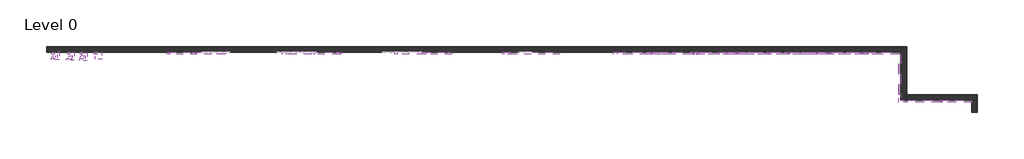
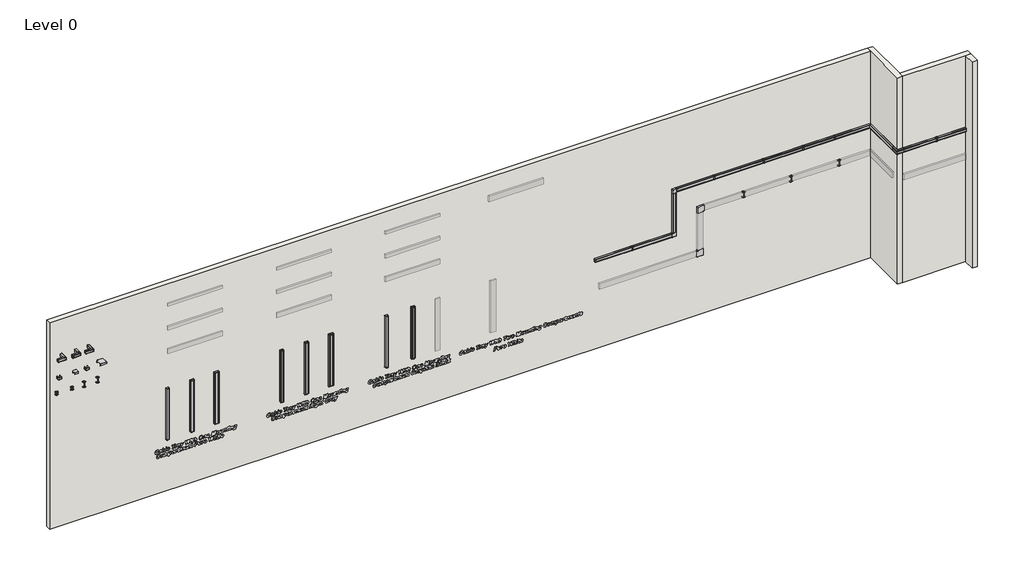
# One storey, part 1 of 5: 39 cable carrier segments, 25 cable carrier fittings, 19 proxies, 4 walls.
"""IFC4 building model written with IfcOpenShell, lengths in millimetres."""

from ifc_helpers import new_model, si_unit, frame, origin, origin_with_axes, place, context, project, spatial, polyline, outline, extrude, faceted_brep, transform, mapped, element, save
from components import ral_7035_light_grey_e2f385a0, ral_7035_light_grey_59abf085, ral_7035_light_grey_bdd1ccd4, ral_7035_light_grey_c893a5ae, ral_7035_light_grey_ba0008b3, ral_7035_light_grey_f50f6097, ral_7035_light_grey_27fdf9d3, ral_7035_light_grey_75ae3775, ral_7035_light_grey_ab9cb874, ral_7035_light_grey_0419c17c, ral_7035_light_grey_c76e6e88, ral_7035_light_grey_e50a98d5, ral_7035_light_grey_e02d2b4f, ral_7035_light_grey_e47fedab, ral_7035_light_grey_df20cfa7, ral_7035_light_grey_244a7b3c, ral_7035_light_grey_b6fd4582, ral_7035_light_grey_8f8970fe, ral_7035_light_grey_a576d7a5, ral_7035_light_grey_9cf4eb19, ral_7035_light_grey_f3a16432, ral_7035_light_grey_0801126e, ral_9010_pure_white_1ff2ae2c, ral_9010_pure_white_cc841c97, ral_9010_pure_white_37bd4c32

model = new_model("IFC4")

# Units and contexts
model_context = context("Model", 3, world=origin())
ifc_project = project(units=[si_unit("LENGTHUNIT", "METRE", prefix="MILLI")], contexts=[model_context])

# Site, building, storey
site = spatial("IfcSite", under=ifc_project)
building = spatial("IfcBuilding", under=site)
storey = spatial("IfcBuildingStorey", under=building, Name="Level 0", Elevation=0.0)

# Proxies
placement = place(None, origin())
ral_7035_light_grey_shape = ral_7035_light_grey_e2f385a0(model_context)
element("IfcBuildingElementProxy", 1, Name="Electrical_Installations_Hager_BRP-Lid-End-Cap-One-Compartment : RAL 7035 - light grey", ObjectType="Electrical_Installations_Hager_BRP-Lid-End-Cap-One-Compartment : RAL 7035 - light grey", at=placement, inside=storey, context=model_context, shape_type="MappedRepresentation", body=[
    mapped(ral_7035_light_grey_shape, transform((-5611.588355, 3986.0812827, 4000.0), x_axis=(0.0, 0.0, -1.0), y_axis=(1.0, 0.0, 0.0), z_axis=(0.0, -1.0, 0.0))),
])
ral_7035_light_grey_2_shape = ral_7035_light_grey_59abf085(model_context)
element("IfcBuildingElementProxy", 2, Name="Electrical_Installations_Hager_BRP-Lid-End-Cap-One-Compartment : RAL 7035 - light grey", ObjectType="Electrical_Installations_Hager_BRP-Lid-End-Cap-One-Compartment : RAL 7035 - light grey", at=placement, inside=storey, context=model_context, shape_type="MappedRepresentation", body=[
    mapped(ral_7035_light_grey_2_shape, transform((-6511.588355, 3986.0812827, 4000.0), x_axis=(0.0, 0.0, -1.0), y_axis=(1.0, 0.0, 0.0), z_axis=(0.0, -1.0, 0.0))),
])
ral_7035_light_grey_3_shape = ral_7035_light_grey_bdd1ccd4(model_context)
element("IfcBuildingElementProxy", 3, Name="Electrical_Installations_Hager_BRP-Lid-End-Cap-One-Compartment : RAL 7035 - light grey", ObjectType="Electrical_Installations_Hager_BRP-Lid-End-Cap-One-Compartment : RAL 7035 - light grey", at=placement, inside=storey, context=model_context, shape_type="MappedRepresentation", body=[
    mapped(ral_7035_light_grey_3_shape, transform((-7411.588355, 3986.0812827, 4000.0), x_axis=(0.0, 0.0, -1.0), y_axis=(1.0, 0.0, 0.0), z_axis=(0.0, -1.0, 0.0))),
])
ral_7035_light_grey_4_shape = ral_7035_light_grey_c893a5ae(model_context)
element("IfcBuildingElementProxy", 4, Name="Electrical_Installations_Hager_BRP-Lid-End-Cap-One-Compartment : RAL 7035 - light grey", ObjectType="Electrical_Installations_Hager_BRP-Lid-End-Cap-One-Compartment : RAL 7035 - light grey", at=placement, inside=storey, context=model_context, shape_type="MappedRepresentation", body=[
    mapped(ral_7035_light_grey_4_shape, transform((4065.205304, 3986.0812827, 3455.6961466), x_axis=(1.0, 0.0, 0.0), y_axis=(0.0, 0.0, 1.0), z_axis=(0.0, -1.0, 0.0))),
])
ral_7035_light_grey_5_shape = ral_7035_light_grey_ba0008b3(model_context)
element("IfcBuildingElementProxy", 5, Name="Electrical_Installations_Hager_BRP-Lid-End-Cap-One-Compartment : RAL 7035 - light grey", ObjectType="Electrical_Installations_Hager_BRP-Lid-End-Cap-One-Compartment : RAL 7035 - light grey", at=placement, inside=storey, context=model_context, shape_type="MappedRepresentation", body=[
    mapped(ral_7035_light_grey_5_shape, transform((5430.7224567, 3986.0812827, 3455.6961466), x_axis=(1.0, 0.0, 0.0), y_axis=(0.0, 0.0, 1.0), z_axis=(0.0, -1.0, 0.0))),
])
ral_7035_light_grey_6_shape = ral_7035_light_grey_f50f6097(model_context)
element("IfcBuildingElementProxy", 6, Name="Electrical_Installations_Hager_BRP-Lid-End-Cap-One-Compartment : RAL 7035 - light grey", ObjectType="Electrical_Installations_Hager_BRP-Lid-End-Cap-One-Compartment : RAL 7035 - light grey", at=placement, inside=storey, context=model_context, shape_type="MappedRepresentation", body=[
    mapped(ral_7035_light_grey_6_shape, transform((6965.205304, 3986.0812827, 3550.6961466), x_axis=(0.0, 0.0, 1.0), y_axis=(-1.0, 0.0, 0.0), z_axis=(0.0, -1.0, 0.0))),
])
ral_7035_light_grey_7_shape = ral_7035_light_grey_27fdf9d3(model_context)
element("IfcBuildingElementProxy", 7, Name="Electrical_Installations_Hager_BRP-Lid-End-Cap-One-Compartment : RAL 7035 - light grey", ObjectType="Electrical_Installations_Hager_BRP-Lid-End-Cap-One-Compartment : RAL 7035 - light grey", at=placement, inside=storey, context=model_context, shape_type="MappedRepresentation", body=[
    mapped(ral_7035_light_grey_7_shape, transform((7060.205304, 3986.0812827, 5155.6961466), x_axis=(1.0, 0.0, 0.0), y_axis=(0.0, 0.0, 1.0), z_axis=(0.0, -1.0, 0.0))),
])
ral_7035_light_grey_8_shape = ral_7035_light_grey_75ae3775(model_context)
element("IfcBuildingElementProxy", 8, Name="Electrical_Installations_Hager_BRP-Lid-End-Cap-One-Compartment : RAL 7035 - light grey", ObjectType="Electrical_Installations_Hager_BRP-Lid-End-Cap-One-Compartment : RAL 7035 - light grey", at=placement, inside=storey, context=model_context, shape_type="MappedRepresentation", body=[
    mapped(ral_7035_light_grey_8_shape, transform((8430.6926436, 3986.0812827, 5155.6961466), x_axis=(1.0, 0.0, 0.0), y_axis=(0.0, 0.0, 1.0), z_axis=(0.0, -1.0, 0.0))),
])
ral_7035_light_grey_9_shape = ral_7035_light_grey_ab9cb874(model_context)
element("IfcBuildingElementProxy", 9, Name="Electrical_Installations_Hager_BRP-Lid-End-Cap-One-Compartment : RAL 7035 - light grey", ObjectType="Electrical_Installations_Hager_BRP-Lid-End-Cap-One-Compartment : RAL 7035 - light grey", at=placement, inside=storey, context=model_context, shape_type="MappedRepresentation", body=[
    mapped(ral_7035_light_grey_9_shape, transform((10247.7179336, 3986.0812827, 5155.6961466), x_axis=(1.0, 0.0, 0.0), y_axis=(0.0, 0.0, 1.0), z_axis=(0.0, -1.0, 0.0))),
])
ral_7035_light_grey_10_shape = ral_7035_light_grey_0419c17c(model_context)
element("IfcBuildingElementProxy", 10, Name="Electrical_Installations_Hager_BRP-Lid-End-Cap-One-Compartment : RAL 7035 - light grey", ObjectType="Electrical_Installations_Hager_BRP-Lid-End-Cap-One-Compartment : RAL 7035 - light grey", at=placement, inside=storey, context=model_context, shape_type="MappedRepresentation", body=[
    mapped(ral_7035_light_grey_10_shape, transform((11693.9336566, 3986.0812827, 5155.6961466), x_axis=(1.0, 0.0, 0.0), y_axis=(0.0, 0.0, 1.0), z_axis=(0.0, -1.0, 0.0))),
])
ral_7035_light_grey_11_shape = ral_7035_light_grey_c76e6e88(model_context)
element("IfcBuildingElementProxy", 11, Name="Electrical_Installations_Hager_BRP-Lid-End-Cap-One-Compartment : RAL 7035 - light grey", ObjectType="Electrical_Installations_Hager_BRP-Lid-End-Cap-One-Compartment : RAL 7035 - light grey", at=placement, inside=storey, context=model_context, shape_type="MappedRepresentation", body=[
    mapped(ral_7035_light_grey_11_shape, transform((12857.9134729, 3986.0812827, 5155.6961466), x_axis=(1.0, 0.0, 0.0), y_axis=(0.0, 0.0, 1.0), z_axis=(0.0, -1.0, 0.0))),
])
ral_7035_light_grey_12_shape = ral_7035_light_grey_e50a98d5(model_context)
element("IfcBuildingElementProxy", 12, Name="Electrical_Installations_Hager_BRP-Lid-End-Cap-One-Compartment : RAL 7035 - light grey", ObjectType="Electrical_Installations_Hager_BRP-Lid-End-Cap-One-Compartment : RAL 7035 - light grey", at=placement, inside=storey, context=model_context, shape_type="MappedRepresentation", body=[
    mapped(ral_7035_light_grey_12_shape, transform((14162.705304, 3967.9437827, 5155.6961933), x_axis=(0.0, -0.999999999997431, 2.2667305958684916e-06), y_axis=(0.0, 2.2667305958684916e-06, 0.999999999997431), z_axis=(-1.0, 0.0, 0.0))),
])
ral_7035_light_grey_13_shape = ral_7035_light_grey_e02d2b4f(model_context)
element("IfcBuildingElementProxy", 13, Name="Electrical_Installations_Hager_BRP-Lid-End-Cap-One-Compartment : RAL 7035 - light grey", ObjectType="Electrical_Installations_Hager_BRP-Lid-End-Cap-One-Compartment : RAL 7035 - light grey", at=placement, inside=storey, context=model_context, shape_type="MappedRepresentation", body=[
    mapped(ral_7035_light_grey_13_shape, transform((14415.205304, 2286.0812827, 5155.7), x_axis=(1.0, 0.0, 0.0), y_axis=(0.0, 0.0, 1.0), z_axis=(0.0, -1.0, 0.0))),
])
ral_7035_light_grey_14_shape = ral_7035_light_grey_e47fedab(model_context)
element("IfcBuildingElementProxy", 14, Name="Electrical_Installations_Hager_BRP-Lid-End-Cap-One-Compartment : RAL 7035 - light grey", ObjectType="Electrical_Installations_Hager_BRP-Lid-End-Cap-One-Compartment : RAL 7035 - light grey", at=placement, inside=storey, context=model_context, shape_type="MappedRepresentation", body=[
    mapped(ral_7035_light_grey_14_shape, transform((15611.7597858, 2286.0812827, 5155.7), x_axis=(1.0, 0.0, 0.0), y_axis=(0.0, 0.0, 1.0), z_axis=(0.0, -1.0, 0.0))),
])
element("IfcBuildingElementProxy", 15, Name="Electrical_Installations_Hager_BRP-Lid-End-Cap-One-Compartment : RAL 9010 - pure white", ObjectType="Electrical_Installations_Hager_BRP-Lid-End-Cap-One-Compartment : RAL 9010 - pure white", at=placement, inside=storey, context=model_context, shape_type="MappedRepresentation", body=[
    mapped(ral_7035_light_grey_3_shape, transform((-11601.0638875, 3986.0812827, 4000.0), x_axis=(0.0, 0.0, -1.0), y_axis=(1.0, 0.0, 0.0), z_axis=(0.0, -1.0, 0.0))),
])
element("IfcBuildingElementProxy", 16, Name="Electrical_Installations_Hager_BRP-Lid-End-Cap-One-Compartment : RAL 9010 - pure white", ObjectType="Electrical_Installations_Hager_BRP-Lid-End-Cap-One-Compartment : RAL 9010 - pure white", at=placement, inside=storey, context=model_context, shape_type="MappedRepresentation", body=[
    mapped(ral_7035_light_grey_2_shape, transform((-10701.0638875, 3986.0812827, 4000.0), x_axis=(0.0, 0.0, -1.0), y_axis=(1.0, 0.0, 0.0), z_axis=(0.0, -1.0, 0.0))),
])
element("IfcBuildingElementProxy", 17, Name="Electrical_Installations_Hager_BRP-Lid-End-Cap-One-Compartment : RAL 9010 - pure white", ObjectType="Electrical_Installations_Hager_BRP-Lid-End-Cap-One-Compartment : RAL 9010 - pure white", at=placement, inside=storey, context=model_context, shape_type="MappedRepresentation", body=[
    mapped(ral_7035_light_grey_shape, transform((-9801.0638875, 3986.0812827, 4000.0), x_axis=(0.0, 0.0, -1.0), y_axis=(1.0, 0.0, 0.0), z_axis=(0.0, -1.0, 0.0))),
])
element("IfcBuildingElementProxy", 18, Name="Electrical_Installations_Hager_BRP-Lid-End-Cap-One-Compartment : RAL9011 - graphite black", ObjectType="Electrical_Installations_Hager_BRP-Lid-End-Cap-One-Compartment : RAL9011 - graphite black", at=placement, inside=storey, context=model_context, shape_type="MappedRepresentation", body=[
    mapped(ral_7035_light_grey_2_shape, transform((-2593.4191608, 3986.0812827, 4000.0), x_axis=(0.0, 0.0, -1.0), y_axis=(1.0, 0.0, 0.0), z_axis=(0.0, -1.0, 0.0))),
])
element("IfcBuildingElementProxy", 19, Name="Electrical_Installations_Hager_BRP-Lid-End-Cap-One-Compartment : RAL9011 - graphite black", ObjectType="Electrical_Installations_Hager_BRP-Lid-End-Cap-One-Compartment : RAL9011 - graphite black", at=placement, inside=storey, context=model_context, shape_type="MappedRepresentation", body=[
    mapped(ral_7035_light_grey_3_shape, transform((-3573.228944, 3982.9897131, 4000.0), x_axis=(0.0, 0.0, -1.0), y_axis=(1.0, 0.0, 0.0), z_axis=(0.0, -1.0, 0.0))),
])

# Cable carrier fittings
ral_7035_light_grey_15_shape = ral_7035_light_grey_df20cfa7(model_context)
element("IfcCableCarrierFitting", 20, ObjectType="Electrical_Installations_Hager_BRP-Horizontal-External-Corner-One-Compartment : RAL 7035 - light grey", at=placement, inside=storey, context=model_context, shape_type="MappedRepresentation", body=[
    mapped(ral_7035_light_grey_15_shape, transform((-15480.0878285, 3795.7507927, 6620.2319977), x_axis=(1.0, 0.0, 0.0), y_axis=(0.0, 1.0, 0.0), z_axis=(0.0, 0.0, 1.0))),
])
ral_7035_light_grey_16_shape = ral_7035_light_grey_244a7b3c(model_context)
element("IfcCableCarrierFitting", 21, ObjectType="Electrical_Installations_Hager_BRP-Cover-Joint-And-Coupling-Set-One-Compartment : RAL 7035 - light grey", at=placement, inside=storey, context=model_context, shape_type="MappedRepresentation", body=[
    mapped(ral_7035_light_grey_16_shape, transform((-15656.1828418, 3982.9590171, 5220.2319977), x_axis=(-1.0, 0.0, 0.0), y_axis=(0.0, -1.0000000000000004, 0.0), z_axis=(0.0, 0.0, 1.0000000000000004))),
])
ral_7035_light_grey_17_shape = ral_7035_light_grey_b6fd4582(model_context)
element("IfcCableCarrierFitting", 22, ObjectType="Electrical_Installations_Hager_BRP-Cover-Joint-And-Coupling-Set-Two-Compartments : RAL 7035 - light grey", at=placement, inside=storey, context=model_context, shape_type="MappedRepresentation", body=[
    mapped(ral_7035_light_grey_17_shape, transform((-14656.1828418, 3982.2219077, 5220.2319977), x_axis=(-1.0, 0.0, 0.0), y_axis=(0.0, -1.0, 0.0), z_axis=(0.0, 0.0, 1.0))),
])
ral_7035_light_grey_18_shape = ral_7035_light_grey_8f8970fe(model_context)
element("IfcCableCarrierFitting", 23, ObjectType="Electrical_Installations_Hager_BRP-Flat-Corner-PC-ABS-Vertical-Inside-And-Outside-Bend-One-Compartment : RAL 7035 - light grey", at=placement, inside=storey, context=model_context, shape_type="MappedRepresentation", body=[
    mapped(ral_7035_light_grey_18_shape, transform((-15644.2285545, 3819.5968987, 5920.2319977), x_axis=(1.0, 0.0, 0.0), y_axis=(0.0, 1.0, 0.0), z_axis=(0.0, 0.0, 1.0))),
])
ral_7035_light_grey_19_shape = ral_7035_light_grey_a576d7a5(model_context)
element("IfcCableCarrierFitting", 24, ObjectType="Electrical_Installations_Hager_BRP-Cover-Joint-And-Coupling-Set-One-Compartment : RAL 7035 - light grey", at=placement, inside=storey, context=model_context, shape_type="MappedRepresentation", body=[
    mapped(ral_7035_light_grey_19_shape, transform((5443.2224567, 3988.5812827, 3455.6961466), x_axis=(-1.0, 0.0, 0.0), y_axis=(0.0, -1.0, 0.0), z_axis=(0.0, 0.0, 1.0))),
])
element("IfcCableCarrierFitting", 25, ObjectType="Electrical_Installations_Hager_BRP-Cover-Joint-And-Coupling-Set-One-Compartment : RAL 7035 - light grey", at=placement, inside=storey, context=model_context, shape_type="MappedRepresentation", body=[
    mapped(ral_7035_light_grey_19_shape, transform((8443.1926436, 3988.5812827, 5155.6961466), x_axis=(-1.0, 0.0, 0.0), y_axis=(0.0, -1.0, 0.0), z_axis=(0.0, 0.0, 1.0))),
])
element("IfcCableCarrierFitting", 26, ObjectType="Electrical_Installations_Hager_BRP-Cover-Joint-And-Coupling-Set-One-Compartment : RAL 7035 - light grey", at=placement, inside=storey, context=model_context, shape_type="MappedRepresentation", body=[
    mapped(ral_7035_light_grey_19_shape, transform((10260.2179336, 3988.5812827, 5155.6961466), x_axis=(-1.0, 0.0, 0.0), y_axis=(0.0, -1.0, 0.0), z_axis=(0.0, 0.0, 1.0))),
])
element("IfcCableCarrierFitting", 27, ObjectType="Electrical_Installations_Hager_BRP-Cover-Joint-And-Coupling-Set-One-Compartment : RAL 7035 - light grey", at=placement, inside=storey, context=model_context, shape_type="MappedRepresentation", body=[
    mapped(ral_7035_light_grey_19_shape, transform((11706.4336566, 3988.5812827, 5155.6961466), x_axis=(-1.0, 0.0, 0.0), y_axis=(0.0, -1.0, 0.0), z_axis=(0.0, 0.0, 1.0))),
])
element("IfcCableCarrierFitting", 28, ObjectType="Electrical_Installations_Hager_BRP-Cover-Joint-And-Coupling-Set-One-Compartment : RAL 7035 - light grey", at=placement, inside=storey, context=model_context, shape_type="MappedRepresentation", body=[
    mapped(ral_7035_light_grey_19_shape, transform((12870.4134729, 3988.5812827, 5155.6961466), x_axis=(-1.0, 0.0, 0.0), y_axis=(0.0, -1.0, 0.0), z_axis=(0.0, 0.0, 1.0))),
])
element("IfcCableCarrierFitting", 29, ObjectType="Electrical_Installations_Hager_BRP-Cover-Joint-And-Coupling-Set-One-Compartment : RAL 7035 - light grey", at=placement, inside=storey, context=model_context, shape_type="MappedRepresentation", body=[
    mapped(ral_7035_light_grey_19_shape, transform((15624.2597858, 2288.5812827, 5155.7), x_axis=(-1.0, 0.0, 0.0), y_axis=(0.0, -1.0, 0.0), z_axis=(0.0, 0.0, 1.0))),
])
ral_7035_light_grey_20_shape = ral_7035_light_grey_9cf4eb19(model_context)
element("IfcCableCarrierFitting", 30, ObjectType="Electrical_Installations_Hager_BRP-Flat-Corner-PC-ABS-Vertical-Inside-And-Outside-Bend-One-Compartment : RAL 7035 - light grey", at=placement, inside=storey, context=model_context, shape_type="MappedRepresentation", body=[
    mapped(ral_7035_light_grey_20_shape, transform((6965.205304, 3988.5812827, 3455.6961466), x_axis=(1.0, 0.0, 0.0), y_axis=(0.0, 0.0, 1.0), z_axis=(0.0, -1.0, 0.0))),
])
ral_7035_light_grey_21_shape = ral_7035_light_grey_f3a16432(model_context)
element("IfcCableCarrierFitting", 31, ObjectType="Electrical_Installations_Hager_BRP-Flat-Corner-PC-ABS-Vertical-Inside-And-Outside-Bend-One-Compartment : RAL 7035 - light grey", at=placement, inside=storey, context=model_context, shape_type="MappedRepresentation", body=[
    mapped(ral_7035_light_grey_21_shape, transform((6965.205304, 3988.5812827, 5155.6961466), x_axis=(0.0, 0.0, 1.0), y_axis=(1.0, 0.0, 0.0), z_axis=(0.0, 1.0, 0.0))),
])
ral_7035_light_grey_22_shape = ral_7035_light_grey_0801126e(model_context)
element("IfcCableCarrierFitting", 32, ObjectType="Electrical_Installations_Hager_BRP-Horizontal-External-Corner-One-Compartment : RAL 7035 - light grey", at=placement, inside=storey, context=model_context, shape_type="MappedRepresentation", body=[
    mapped(ral_7035_light_grey_22_shape, transform((14165.205304, 2288.5812827, 5155.7), x_axis=(0.0, -0.9999999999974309, 2.266730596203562e-06), y_axis=(1.0, 0.0, 0.0), z_axis=(0.0, 2.266730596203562e-06, 0.9999999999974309))),
])
element("IfcCableCarrierFitting", 33, ObjectType="Electrical_Installations_Hager_BRP-Horizontal-External-Corner-One-Compartment : RAL 9010 - pure white", at=placement, inside=storey, context=model_context, shape_type="MappedRepresentation", body=[
    mapped(ral_7035_light_grey_15_shape, transform((-14962.0281183, 3766.1473807, 6620.2319977), x_axis=(1.0, 0.0, 0.0), y_axis=(0.0, 1.0, 0.0), z_axis=(0.0, 0.0, 1.0))),
])
ral_9010_pure_white_shape = ral_9010_pure_white_1ff2ae2c(model_context)
element("IfcCableCarrierFitting", 34, ObjectType="Electrical_Installations_Hager_BRP-Flat-Corner-PC-ABS-Vertical-Inside-And-Outside-Bend-Two-Compartments : RAL 9010 - pure white", at=placement, inside=storey, context=model_context, shape_type="MappedRepresentation", body=[
    mapped(ral_9010_pure_white_shape, transform((7927.9927936, 3988.5812827, 2408.8919795), x_axis=(1.0, 0.0, 0.0), y_axis=(0.0, 0.0, 1.0), z_axis=(0.0, -1.0, 0.0))),
])
element("IfcCableCarrierFitting", 35, ObjectType="Electrical_Installations_Hager_BRP-Flat-Corner-PC-ABS-Vertical-Inside-And-Outside-Bend-Two-Compartments : RAL 9010 - pure white", at=placement, inside=storey, context=model_context, shape_type="MappedRepresentation", body=[
    mapped(ral_9010_pure_white_shape, transform((-14055.703144, 3886.0812827, 5920.2319977), x_axis=(1.0, 0.0, 0.0), y_axis=(0.0, 1.0, 0.0), z_axis=(0.0, 0.0, 1.0))),
])
element("IfcCableCarrierFitting", 36, ObjectType="Electrical_Installations_Hager_BRP-Cover-Joint-And-Coupling-Set-One-Compartment : RAL 9010 - pure white", at=placement, inside=storey, context=model_context, shape_type="MappedRepresentation", body=[
    mapped(ral_7035_light_grey_16_shape, transform((-15096.1828418, 3982.9590171, 5220.2319977), x_axis=(-1.0, 0.0, 0.0), y_axis=(0.0, -1.0, 0.0), z_axis=(0.0, 0.0, 1.0))),
])
element("IfcCableCarrierFitting", 37, ObjectType="Electrical_Installations_Hager_BRP-Cover-Joint-And-Coupling-Set-Two-Compartments : RAL 9010 - pure white", at=placement, inside=storey, context=model_context, shape_type="MappedRepresentation", body=[
    mapped(ral_7035_light_grey_17_shape, transform((9532.0175357, 3988.5812827, 4115.2319977), x_axis=(-1.0, 0.0, 0.0), y_axis=(0.0, -1.0, 0.0), z_axis=(0.0, 0.0, 1.0))),
])
element("IfcCableCarrierFitting", 38, ObjectType="Electrical_Installations_Hager_BRP-Cover-Joint-And-Coupling-Set-Two-Compartments : RAL 9010 - pure white", at=placement, inside=storey, context=model_context, shape_type="MappedRepresentation", body=[
    mapped(ral_7035_light_grey_17_shape, transform((11271.292701, 3988.5812827, 4115.2319977), x_axis=(-1.0, 0.0, 0.0), y_axis=(0.0, -1.0, 0.0), z_axis=(0.0, 0.0, 1.0))),
])
element("IfcCableCarrierFitting", 39, ObjectType="Electrical_Installations_Hager_BRP-Cover-Joint-And-Coupling-Set-Two-Compartments : RAL 9010 - pure white", at=placement, inside=storey, context=model_context, shape_type="MappedRepresentation", body=[
    mapped(ral_7035_light_grey_17_shape, transform((13035.4055078, 3988.5812827, 4115.2319977), x_axis=(-1.0, 0.0, 0.0), y_axis=(0.0, -1.0, 0.0), z_axis=(0.0, 0.0, 1.0))),
])
element("IfcCableCarrierFitting", 40, ObjectType="Electrical_Installations_Hager_BRP-Cover-Joint-And-Coupling-Set-Two-Compartments : RAL 9010 - pure white", at=placement, inside=storey, context=model_context, shape_type="MappedRepresentation", body=[
    mapped(ral_7035_light_grey_17_shape, transform((-14156.1828418, 3982.2219077, 5220.2319977), x_axis=(-1.0, 0.0, 0.0), y_axis=(0.0, -1.0, 0.0), z_axis=(0.0, 0.0, 1.0))),
])
ral_9010_pure_white_2_shape = ral_9010_pure_white_cc841c97(model_context)
element("IfcCableCarrierFitting", 41, ObjectType="Electrical_Installations_Hager_BRP-Flat-Corner-PC-ABS-Vertical-Inside-And-Outside-Bend-One-Compartment : RAL 9010 - pure white", at=placement, inside=storey, context=model_context, shape_type="MappedRepresentation", body=[
    mapped(ral_9010_pure_white_2_shape, transform((-15050.3095703, 3824.5308007, 5920.2319977), x_axis=(1.0, 0.0, 0.0), y_axis=(0.0, 1.0, 0.0), z_axis=(0.0, 0.0, 1.0))),
])
ral_9010_pure_white_3_shape = ral_9010_pure_white_37bd4c32(model_context)
element("IfcCableCarrierFitting", 42, ObjectType="Electrical_Installations_Hager_BRP-Flat-Corner-PC-ABS-Vertical-Inside-And-Outside-Bend-Two-Compartments : RAL 9010 - pure white", at=placement, inside=storey, context=model_context, shape_type="MappedRepresentation", body=[
    mapped(ral_9010_pure_white_3_shape, transform((7927.9927936, 3988.5812827, 4115.2319977), x_axis=(0.0, 0.0, 1.0), y_axis=(1.0, 0.0, 0.0), z_axis=(0.0, 1.0, 0.0))),
])
element("IfcCableCarrierFitting", 43, ObjectType="Electrical_Installations_Hager_BRP-Horizontal-External-Corner-One-Compartment : RAL 9011 - graphite black", at=placement, inside=storey, context=model_context, shape_type="MappedRepresentation", body=[
    mapped(ral_7035_light_grey_15_shape, transform((-14493.3074281, 3756.2795767, 6620.2319977), x_axis=(1.0, 0.0, 0.0), y_axis=(0.0, 1.0, 0.0), z_axis=(0.0, 0.0, 1.0))),
])
element("IfcCableCarrierFitting", 44, ObjectType="Electrical_Installations_Hager_BRP-Flat-Corner-PC-ABS-Vertical-Inside-And-Outside-Bend-One-Compartment : RAL 9011 - graphite black", at=placement, inside=storey, context=model_context, shape_type="MappedRepresentation", body=[
    mapped(ral_7035_light_grey_18_shape, transform((-14629.8703322, 3834.3986047, 5920.2319977), x_axis=(1.0, 0.0, 0.0), y_axis=(0.0, 1.0, 0.0), z_axis=(0.0, 0.0, 1.0))),
])

# Cable carrier segments
element("IfcCableCarrierSegment", 45, ObjectType="Electrical_Installations_Hager_Trunking-BRP-One-Compartment-RAL9010-Pure-White", at=placement, inside=storey, context=model_context, shape_type="SweptSolid", body=[
    extrude(outline(polyline([(-11551.0638875, 4021.0812827), (-11551.0638875, 3956.0812827), (-11651.0638875, 3956.0812827), (-11651.0638875, 4021.0812827), (-11551.0638875, 4021.0812827)])), frame((0.0, 0.0, 2000.0), z_axis=(0.0, 0.0, 1.0), x_axis=(1.0, 0.0, 0.0)), (0.0, 0.0, 1.0), 2000.0),
])
element("IfcCableCarrierSegment", 46, ObjectType="Electrical_Installations_Hager_Trunking-BRP-One-Compartment-RAL9010-Pure-White", at=placement, inside=storey, context=model_context, shape_type="SweptSolid", body=[
    extrude(outline(polyline([(-10636.0638875, 4021.0812827), (-10636.0638875, 3956.0812827), (-10766.0638875, 3956.0812827), (-10766.0638875, 4021.0812827), (-10636.0638875, 4021.0812827)])), frame((0.0, 0.0, 2000.0), z_axis=(0.0, 0.0, 1.0), x_axis=(1.0, 0.0, 0.0)), (0.0, 0.0, 1.0), 2000.0),
])
element("IfcCableCarrierSegment", 47, ObjectType="Electrical_Installations_Hager_Trunking-BRP-One-Compartment-RAL9010-Pure-White", at=placement, inside=storey, context=model_context, shape_type="SweptSolid", body=[
    extrude(outline(polyline([(-9716.0638875, 4021.0812827), (-9716.0638875, 3956.0812827), (-9886.0638875, 3956.0812827), (-9886.0638875, 4021.0812827), (-9716.0638875, 4021.0812827)])), frame((0.0, 0.0, 2000.0), z_axis=(0.0, 0.0, 1.0), x_axis=(1.0, 0.0, 0.0)), (0.0, 0.0, 1.0), 2000.0),
])
element("IfcCableCarrierSegment", 48, ObjectType="Electrical_Installations_Hager_Trunking-BRP-One-Compartment-RAL7035-Light-Grey", at=placement, inside=storey, context=model_context, shape_type="SweptSolid", body=[
    extrude(outline(polyline([(-7361.588355, 4021.0812827), (-7361.588355, 3956.0812827), (-7461.588355, 3956.0812827), (-7461.588355, 4021.0812827), (-7361.588355, 4021.0812827)])), frame((0.0, 0.0, 2000.0), z_axis=(0.0, 0.0, 1.0), x_axis=(1.0, 0.0, 0.0)), (0.0, 0.0, 1.0), 2000.0),
])
element("IfcCableCarrierSegment", 49, ObjectType="Electrical_Installations_Hager_Trunking-BRP-One-Compartment-RAL7035-Light-Grey", at=placement, inside=storey, context=model_context, shape_type="SweptSolid", body=[
    extrude(outline(polyline([(-6446.588355, 4021.0812827), (-6446.588355, 3956.0812827), (-6576.588355, 3956.0812827), (-6576.588355, 4021.0812827), (-6446.588355, 4021.0812827)])), frame((0.0, 0.0, 2000.0), z_axis=(0.0, 0.0, 1.0), x_axis=(1.0, 0.0, 0.0)), (0.0, 0.0, 1.0), 2000.0),
])
element("IfcCableCarrierSegment", 50, ObjectType="Electrical_Installations_Hager_Trunking-BRP-One-Compartment-RAL7035-Light-Grey", at=placement, inside=storey, context=model_context, shape_type="SweptSolid", body=[
    extrude(outline(polyline([(-5526.588355, 4021.0812827), (-5526.588355, 3956.0812827), (-5696.588355, 3956.0812827), (-5696.588355, 4021.0812827), (-5526.588355, 4021.0812827)])), frame((0.0, 0.0, 2000.0), z_axis=(0.0, 0.0, 1.0), x_axis=(1.0, 0.0, 0.0)), (0.0, 0.0, 1.0), 2000.0),
])
element("IfcCableCarrierSegment", 51, ObjectType="Electrical_Installations_Hager_Trunking-BRP-One-Compartment-RAL9011-Graphite-Black", at=placement, inside=storey, context=model_context, shape_type="SweptSolid", body=[
    extrude(outline(polyline([(-3523.228944, 4017.9897131), (-3523.228944, 3952.9897131), (-3623.228944, 3952.9897131), (-3623.228944, 4017.9897131), (-3523.228944, 4017.9897131)])), frame((0.0, 0.0, 2000.0), z_axis=(0.0, 0.0, 1.0), x_axis=(1.0, 0.0, 0.0)), (0.0, 0.0, 1.0), 2000.0),
])
element("IfcCableCarrierSegment", 52, ObjectType="Electrical_Installations_Hager_Trunking-BRP-One-Compartment-RAL9011-Graphite-Black", at=placement, inside=storey, context=model_context, shape_type="SweptSolid", body=[
    extrude(outline(polyline([(-2528.4191608, 4021.0812827), (-2528.4191608, 3956.0812827), (-2658.4191608, 3956.0812827), (-2658.4191608, 4021.0812827), (-2528.4191608, 4021.0812827)])), frame((0.0, 0.0, 2000.0), z_axis=(0.0, 0.0, 1.0), x_axis=(1.0, 0.0, 0.0)), (0.0, 0.0, 1.0), 2000.0),
])
element("IfcCableCarrierSegment", 53, ObjectType="Electrical_Installations_Hager_Trunking-BRP-One-Compartment-RAL9011-Graphite-Black", at=placement, inside=storey, context=model_context, shape_type="SweptSolid", body=[
    extrude(outline(polyline([(-1608.4191608, 4021.0812827), (-1608.4191608, 3956.0812827), (-1778.4191608, 3956.0812827), (-1778.4191608, 4021.0812827), (-1608.4191608, 4021.0812827)])), frame((0.0, 0.0, 2000.0), z_axis=(0.0, 0.0, 1.0), x_axis=(1.0, 0.0, 0.0)), (0.0, 0.0, 1.0), 2000.0),
])
element("IfcCableCarrierSegment", 54, ObjectType="Electrical_Installations_Hager_Trunking-BRP-Two-Compartments-RAL9010-Pure-White", at=placement, inside=storey, context=model_context, shape_type="SweptSolid", body=[
    extrude(outline(polyline([(443.3618884, 4021.0812827), (443.3618884, 3956.0812827), (233.3618884, 3956.0812827), (233.3618884, 4021.0812827), (443.3618884, 4021.0812827)])), frame((0.0, 0.0, 2000.0), z_axis=(0.0, 0.0, 1.0), x_axis=(1.0, 0.0, 0.0)), (0.0, 0.0, 1.0), 2000.0),
])
element("IfcCableCarrierSegment", 55, ObjectType="Electrical_Installations_Hager_Trunking-BRP-One-Compartment-RAL9010-Pure-White", at=placement, inside=storey, context=model_context, shape_type="SweptSolid", body=[
    extrude(outline(polyline([(-9585.8318898, 4021.0812827), (-9585.8318898, 3956.0812827), (-11585.8318898, 3956.0812827), (-11585.8318898, 4021.0812827), (-9585.8318898, 4021.0812827)])), frame((0.0, 0.0, 7165.2319977), z_axis=(0.0, 0.0, 1.0), x_axis=(1.0, 0.0, 0.0)), (0.0, 0.0, 1.0), 100.0),
])
element("IfcCableCarrierSegment", 56, ObjectType="Electrical_Installations_Hager_Trunking-BRP-One-Compartment-RAL9010-Pure-White", at=placement, inside=storey, context=model_context, shape_type="SweptSolid", body=[
    extrude(outline(polyline([(-9585.8318898, 4021.0812827), (-9585.8318898, 3956.0812827), (-11585.8318898, 3956.0812827), (-11585.8318898, 4021.0812827), (-9585.8318898, 4021.0812827)])), frame((0.0, 0.0, 6250.2319977), z_axis=(0.0, 0.0, 1.0), x_axis=(1.0, 0.0, 0.0)), (0.0, 0.0, 1.0), 130.0),
])
element("IfcCableCarrierSegment", 57, ObjectType="Electrical_Installations_Hager_Trunking-BRP-One-Compartment-RAL9010-Pure-White", at=placement, inside=storey, context=model_context, shape_type="SweptSolid", body=[
    extrude(outline(polyline([(-9585.8318898, 4021.0812827), (-9585.8318898, 3956.0812827), (-11585.8318898, 3956.0812827), (-11585.8318898, 4021.0812827), (-9585.8318898, 4021.0812827)])), frame((0.0, 0.0, 5330.2), z_axis=(0.0, 0.0, 1.0), x_axis=(1.0, 0.0, 0.0)), (0.0, 0.0, 1.0), 170.0),
])
element("IfcCableCarrierSegment", 58, ObjectType="Electrical_Installations_Hager_Trunking-BRP-One-Compartment-RAL7035-Light-Grey", at=placement, inside=storey, context=model_context, shape_type="SweptSolid", body=[
    extrude(outline(polyline([(-5591.8203528, 4021.0812827), (-5591.8203528, 3956.0812827), (-7591.8203528, 3956.0812827), (-7591.8203528, 4021.0812827), (-5591.8203528, 4021.0812827)])), frame((0.0, 0.0, 7165.2319977), z_axis=(0.0, 0.0, 1.0), x_axis=(1.0, 0.0, 0.0)), (0.0, 0.0, 1.0), 100.0),
])
element("IfcCableCarrierSegment", 59, ObjectType="Electrical_Installations_Hager_Trunking-BRP-One-Compartment-RAL7035-Light-Grey", at=placement, inside=storey, context=model_context, shape_type="SweptSolid", body=[
    extrude(outline(polyline([(-5591.8203528, 4021.0812827), (-5591.8203528, 3956.0812827), (-7591.8203528, 3956.0812827), (-7591.8203528, 4021.0812827), (-5591.8203528, 4021.0812827)])), frame((0.0, 0.0, 6250.2319977), z_axis=(0.0, 0.0, 1.0), x_axis=(1.0, 0.0, 0.0)), (0.0, 0.0, 1.0), 130.0),
])
element("IfcCableCarrierSegment", 60, ObjectType="Electrical_Installations_Hager_Trunking-BRP-One-Compartment-RAL7035-Light-Grey", at=placement, inside=storey, context=model_context, shape_type="SweptSolid", body=[
    extrude(outline(polyline([(-5591.8203528, 4021.0812827), (-5591.8203528, 3956.0812827), (-7591.8203528, 3956.0812827), (-7591.8203528, 4021.0812827), (-5591.8203528, 4021.0812827)])), frame((0.0, 0.0, 5330.2319977), z_axis=(0.0, 0.0, 1.0), x_axis=(1.0, 0.0, 0.0)), (0.0, 0.0, 1.0), 170.0),
])
element("IfcCableCarrierSegment", 61, ObjectType="Electrical_Installations_Hager_Trunking-BRP-One-Compartment-RAL9011-Graphite-Black", at=placement, inside=storey, context=model_context, shape_type="SweptSolid", body=[
    extrude(outline(polyline([(-1615.8240524, 4021.0812827), (-1615.8240524, 3956.0812827), (-3615.8240524, 3956.0812827), (-3615.8240524, 4021.0812827), (-1615.8240524, 4021.0812827)])), frame((0.0, 0.0, 6250.2319977), z_axis=(0.0, 0.0, 1.0), x_axis=(1.0, 0.0, 0.0)), (0.0, 0.0, 1.0), 130.0),
])
element("IfcCableCarrierSegment", 62, ObjectType="Electrical_Installations_Hager_Trunking-BRP-One-Compartment-RAL9011-Graphite-Black", at=placement, inside=storey, context=model_context, shape_type="SweptSolid", body=[
    extrude(outline(polyline([(-1615.8240524, 4021.0812827), (-1615.8240524, 3956.0812827), (-3615.8240524, 3956.0812827), (-3615.8240524, 4021.0812827), (-1615.8240524, 4021.0812827)])), frame((0.0, 0.0, 5330.2319977), z_axis=(0.0, 0.0, 1.0), x_axis=(1.0, 0.0, 0.0)), (0.0, 0.0, 1.0), 170.0),
])
element("IfcCableCarrierSegment", 63, ObjectType="Electrical_Installations_Hager_Trunking-BRP-Two-Compartments-RAL9010-Pure-White", at=placement, inside=storey, context=model_context, shape_type="SweptSolid", body=[
    extrude(outline(polyline([(2176.8946602, 4021.0812827), (2176.8946602, 3956.0812827), (176.8946602, 3956.0812827), (176.8946602, 4021.0812827), (2176.8946602, 4021.0812827)])), frame((0.0, 0.0, 7110.2319977), z_axis=(0.0, 0.0, 1.0), x_axis=(1.0, 0.0, 0.0)), (0.0, 0.0, 1.0), 210.0),
])
element("IfcCableCarrierSegment", 64, ObjectType="Electrical_Installations_Hager_Trunking-BRP-One-Compartment-RAL9011-Graphite-Black", at=placement, inside=storey, context=model_context, shape_type="SweptSolid", body=[
    extrude(outline(polyline([(-1615.8240524, 4021.0812827), (-1615.8240524, 3956.0812827), (-3615.8240524, 3956.0812827), (-3615.8240524, 4021.0812827), (-1615.8240524, 4021.0812827)])), frame((0.0, 0.0, 7165.2319977), z_axis=(0.0, 0.0, 1.0), x_axis=(1.0, 0.0, 0.0)), (0.0, 0.0, 1.0), 100.0),
])
element("IfcCableCarrierSegment", 65, ObjectType="Electrical_Installations_Hager_Trunking-BRP-One-Compartment-RAL7035-Light-Grey", at=placement, inside=storey, context=model_context, shape_type="SweptSolid", body=[
    extrude(outline(polyline([(5430.7224567, 3956.0812827), (5430.7224567, 4021.0812827), (6870.205304, 4021.0812827), (6870.205304, 3956.0812827), (5430.7224567, 3956.0812827)])), frame((0.0, 0.0, 3390.6961466), z_axis=(0.0, 0.0, 1.0), x_axis=(1.0, 0.0, 0.0)), (0.0, 0.0, 1.0), 130.0),
])
element("IfcCableCarrierSegment", 66, ObjectType="Electrical_Installations_Hager_Trunking-BRP-One-Compartment-RAL7035-Light-Grey", at=placement, inside=storey, context=model_context, shape_type="SweptSolid", body=[
    extrude(outline(polyline([(7030.205304, 3956.0812827), (6900.205304, 3956.0812827), (6900.205304, 4021.0812827), (7030.205304, 4021.0812827), (7030.205304, 3956.0812827)])), frame((0.0, 0.0, 3550.6961466), z_axis=(0.0, 0.0, 1.0), x_axis=(1.0, 0.0, 0.0)), (0.0, 0.0, 1.0), 1510.0),
])
element("IfcCableCarrierSegment", 67, ObjectType="Electrical_Installations_Hager_Trunking-BRP-One-Compartment-RAL7035-Light-Grey", at=placement, inside=storey, context=model_context, shape_type="SweptSolid", body=[
    extrude(outline(polyline([(12857.9134729, 3956.0812827), (12857.9134729, 4021.0812827), (14144.567804, 4021.0812827), (14144.567804, 3956.0812827), (12857.9134729, 3956.0812827)])), frame((0.0, 0.0, 5090.6961466), z_axis=(0.0, 0.0, 1.0), x_axis=(1.0, 0.0, 0.0)), (0.0, 0.0, 1.0), 130.0),
])
element("IfcCableCarrierSegment", 68, ObjectType="Electrical_Installations_Hager_Trunking-BRP-One-Compartment-RAL7035-Light-Grey", at=placement, inside=storey, context=model_context, shape_type="SweptSolid", body=[
    extrude(outline(polyline([(0.0, -65.0), (0.0, 0.0), (1429.3625, 0.0), (1429.3625, -65.0), (0.0, -65.0)])), frame((14197.705304, 3967.9436354, 5090.6961933), z_axis=(0.0, 2.2667305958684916e-06, 0.999999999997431), x_axis=(0.0, -0.999999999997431, 2.2667305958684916e-06)), (0.0, 0.0, 1.0), 130.0),
])
element("IfcCableCarrierSegment", 69, ObjectType="Electrical_Installations_Hager_Trunking-BRP-One-Compartment-RAL7035-Light-Grey", at=placement, inside=storey, context=model_context, shape_type="SweptSolid", body=[
    extrude(outline(polyline([(15611.7597858, 2256.0812827), (15611.7597858, 2321.0812827), (16685.205304, 2321.0812827), (16685.205304, 2256.0812827), (15611.7597858, 2256.0812827)])), frame((0.0, 0.0, 5090.7), z_axis=(0.0, 0.0, 1.0), x_axis=(1.0, 0.0, 0.0)), (0.0, 0.0, 1.0), 130.0),
])
element("IfcCableCarrierSegment", 70, ObjectType="Electrical_Installations_Hager_Trunking-BRP-One-Compartment-RAL7035-Light-Grey", at=placement, inside=storey, context=model_context, shape_type="SweptSolid", body=[
    extrude(outline(polyline([(4065.205304, 3956.0812827), (4065.205304, 4021.0812827), (5430.7224567, 4021.0812827), (5430.7224567, 3956.0812827), (4065.205304, 3956.0812827)])), frame((0.0, 0.0, 3390.6961466), z_axis=(0.0, 0.0, 1.0), x_axis=(1.0, 0.0, 0.0)), (0.0, 0.0, 1.0), 130.0),
])
element("IfcCableCarrierSegment", 71, ObjectType="Electrical_Installations_Hager_Trunking-BRP-One-Compartment-RAL7035-Light-Grey", at=placement, inside=storey, context=model_context, shape_type="SweptSolid", body=[
    extrude(outline(polyline([(7060.205304, 3956.0812827), (7060.205304, 4021.0812827), (8430.6926436, 4021.0812827), (8430.6926436, 3956.0812827), (7060.205304, 3956.0812827)])), frame((0.0, 0.0, 5090.6961466), z_axis=(0.0, 0.0, 1.0), x_axis=(1.0, 0.0, 0.0)), (0.0, 0.0, 1.0), 130.0),
])
element("IfcCableCarrierSegment", 72, ObjectType="Electrical_Installations_Hager_Trunking-BRP-One-Compartment-RAL7035-Light-Grey", at=placement, inside=storey, context=model_context, shape_type="SweptSolid", body=[
    extrude(outline(polyline([(8430.6926436, 3956.0812827), (8430.6926436, 4021.0812827), (10247.7179336, 4021.0812827), (10247.7179336, 3956.0812827), (8430.6926436, 3956.0812827)])), frame((0.0, 0.0, 5090.6961466), z_axis=(0.0, 0.0, 1.0), x_axis=(1.0, 0.0, 0.0)), (0.0, 0.0, 1.0), 130.0),
])
element("IfcCableCarrierSegment", 73, ObjectType="Electrical_Installations_Hager_Trunking-BRP-One-Compartment-RAL7035-Light-Grey", at=placement, inside=storey, context=model_context, shape_type="SweptSolid", body=[
    extrude(outline(polyline([(10247.7179336, 3956.0812827), (10247.7179336, 4021.0812827), (11693.9336566, 4021.0812827), (11693.9336566, 3956.0812827), (10247.7179336, 3956.0812827)])), frame((0.0, 0.0, 5090.6961466), z_axis=(0.0, 0.0, 1.0), x_axis=(1.0, 0.0, 0.0)), (0.0, 0.0, 1.0), 130.0),
])
element("IfcCableCarrierSegment", 74, ObjectType="Electrical_Installations_Hager_Trunking-BRP-One-Compartment-RAL7035-Light-Grey", at=placement, inside=storey, context=model_context, shape_type="SweptSolid", body=[
    extrude(outline(polyline([(11693.9336566, 3956.0812827), (11693.9336566, 4021.0812827), (12857.9134729, 4021.0812827), (12857.9134729, 3956.0812827), (11693.9336566, 3956.0812827)])), frame((0.0, 0.0, 5090.6961466), z_axis=(0.0, 0.0, 1.0), x_axis=(1.0, 0.0, 0.0)), (0.0, 0.0, 1.0), 130.0),
])
element("IfcCableCarrierSegment", 75, ObjectType="Electrical_Installations_Hager_Trunking-BRP-One-Compartment-RAL7035-Light-Grey", at=placement, inside=storey, context=model_context, shape_type="SweptSolid", body=[
    extrude(outline(polyline([(14415.205304, 2256.0812827), (14415.205304, 2321.0812827), (15611.7597858, 2321.0812827), (15611.7597858, 2256.0812827), (14415.205304, 2256.0812827)])), frame((0.0, 0.0, 5090.7), z_axis=(0.0, 0.0, 1.0), x_axis=(1.0, 0.0, 0.0)), (0.0, 0.0, 1.0), 130.0),
])
element("IfcCableCarrierSegment", 76, ObjectType="Electrical_Installations_Hager_Trunking-BRP-Two-Compartments-RAL9010-Pure-White", at=placement, inside=storey, context=model_context, shape_type="SweptSolid", body=[
    extrude(outline(polyline([(4227.9927936, 3956.0812827), (4227.9927936, 4021.0812827), (7792.9927936, 4021.0812827), (7792.9927936, 3956.0812827), (4227.9927936, 3956.0812827)])), frame((0.0, 0.0, 2303.8919795), z_axis=(0.0, 0.0, 1.0), x_axis=(1.0, 0.0, 0.0)), (0.0, 0.0, 1.0), 210.0),
])
element("IfcCableCarrierSegment", 77, ObjectType="Electrical_Installations_Hager_Trunking-BRP-Two-Compartments-RAL9010-Pure-White", at=placement, inside=storey, context=model_context, shape_type="SweptSolid", body=[
    extrude(outline(polyline([(8032.9927936, 3956.0812827), (7822.9927936, 3956.0812827), (7822.9927936, 4021.0812827), (8032.9927936, 4021.0812827), (8032.9927936, 3956.0812827)])), frame((0.0, 0.0, 2543.8919795), z_axis=(0.0, 0.0, 1.0), x_axis=(1.0, 0.0, 0.0)), (0.0, 0.0, 1.0), 1436.3400182),
])
element("IfcCableCarrierSegment", 78, ObjectType="Electrical_Installations_Hager_Trunking-BRP-Two-Compartments-RAL9010-Pure-White", at=placement, inside=storey, context=model_context, shape_type="SweptSolid", body=[
    extrude(outline(polyline([(13022.9055078, 3956.0812827), (13022.9055078, 4021.0812827), (14144.505304, 4021.0812827), (14144.505304, 3956.0812827), (13022.9055078, 3956.0812827)])), frame((0.0, 0.0, 4010.2319977), z_axis=(0.0, 0.0, 1.0), x_axis=(1.0, 0.0, 0.0)), (0.0, 0.0, 1.0), 210.0),
])
element("IfcCableCarrierSegment", 79, ObjectType="Electrical_Installations_Hager_Trunking-BRP-Two-Compartments-RAL9010-Pure-White", at=placement, inside=storey, context=model_context, shape_type="SweptSolid", body=[
    extrude(outline(polyline([(0.0, -65.0), (0.0, 0.0), (1429.3625003, 0.0), (1429.3625003, -65.0), (0.0, -65.0)])), frame((14197.642804, 3967.9457389, 4010.2319978), z_axis=(0.0, -1.862997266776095e-05, 0.999999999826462), x_axis=(0.0, -0.999999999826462, -1.862997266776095e-05)), (0.0, 0.0, 1.0), 210.0),
])
element("IfcCableCarrierSegment", 80, ObjectType="Electrical_Installations_Hager_Trunking-BRP-Two-Compartments-RAL9010-Pure-White", at=placement, inside=storey, context=model_context, shape_type="SweptSolid", body=[
    extrude(outline(polyline([(14415.142804, 2256.0812827), (14415.142804, 2321.0812827), (16687.9927936, 2321.0812827), (16687.9927936, 2256.0812827), (14415.142804, 2256.0812827)])), frame((0.0, 0.0, 4010.2), z_axis=(0.0, 0.0, 1.0), x_axis=(1.0, 0.0, 0.0)), (0.0, 0.0, 1.0), 210.0),
])
element("IfcCableCarrierSegment", 81, ObjectType="Electrical_Installations_Hager_Trunking-BRP-Two-Compartments-RAL9010-Pure-White", at=placement, inside=storey, context=model_context, shape_type="SweptSolid", body=[
    extrude(outline(polyline([(8062.9927936, 3956.0812827), (8062.9927936, 4021.0812827), (9519.5175357, 4021.0812827), (9519.5175357, 3956.0812827), (8062.9927936, 3956.0812827)])), frame((0.0, 0.0, 4010.2319977), z_axis=(0.0, 0.0, 1.0), x_axis=(1.0, 0.0, 0.0)), (0.0, 0.0, 1.0), 210.0),
])
element("IfcCableCarrierSegment", 82, ObjectType="Electrical_Installations_Hager_Trunking-BRP-Two-Compartments-RAL9010-Pure-White", at=placement, inside=storey, context=model_context, shape_type="SweptSolid", body=[
    extrude(outline(polyline([(9519.5175357, 3956.0812827), (9519.5175357, 4021.0812827), (11258.792701, 4021.0812827), (11258.792701, 3956.0812827), (9519.5175357, 3956.0812827)])), frame((0.0, 0.0, 4010.2319977), z_axis=(0.0, 0.0, 1.0), x_axis=(1.0, 0.0, 0.0)), (0.0, 0.0, 1.0), 210.0),
])
element("IfcCableCarrierSegment", 83, ObjectType="Electrical_Installations_Hager_Trunking-BRP-Two-Compartments-RAL9010-Pure-White", at=placement, inside=storey, context=model_context, shape_type="SweptSolid", body=[
    extrude(outline(polyline([(11258.792701, 3956.0812827), (11258.792701, 4021.0812827), (13022.9055078, 4021.0812827), (13022.9055078, 3956.0812827), (11258.792701, 3956.0812827)])), frame((0.0, 0.0, 4010.2319977), z_axis=(0.0, 0.0, 1.0), x_axis=(1.0, 0.0, 0.0)), (0.0, 0.0, 1.0), 210.0),
])

# Walls
element("IfcWall", 84, ObjectType="Generic - 200mm", at=placement, inside=storey, context=model_context, shape_type="SweptSolid", body=[
    extrude(outline(polyline([(14200.705304, 4021.0812827), (-15899.294696, 4021.0812827), (-15899.294696, 4221.0812827), (14200.705304, 4221.0812827), (14200.705304, 4021.0812827)])), origin_with_axes(), (0.0, 0.0, 1.0), 8000.0),
])
element("IfcWall", 85, ObjectType="Generic - 200mm", at=placement, inside=storey, context=model_context, shape_type="Brep", body=[
    faceted_brep([(14200.705304, 4221.0812827, 0.0), (14200.705304, 4021.0812827, 0.0), (14200.705304, 2321.0812827, 0.0), (14200.705304, 2321.0812827, 8000.0), (14200.705304, 4021.0812827, 8000.0), (14200.705304, 4221.0812827, 8000.0), (14400.705304, 4221.0812827, 0.0), (14400.705304, 4221.0812827, 8000.0), (14400.705304, 2521.0812827, 8000.0), (14400.705304, 2321.0812827, 8000.0), (14400.705304, 2321.0812827, 0.0), (14400.705304, 2521.0812827, 0.0)], [[[0, 1, 2, 3, 4, 5]], [[6, 7, 8, 9, 10, 11]], [[2, 1, 0, 6, 11, 10]], [[5, 4, 3, 9, 8, 7]], [[3, 2, 10, 9]], [[0, 5, 7, 6]]]),
])
element("IfcWall", 86, ObjectType="Generic - 200mm", at=placement, inside=storey, context=model_context, shape_type="Brep", body=[
    faceted_brep([(14400.705304, 2321.0812827, 0.0), (16694.642804, 2321.0812827, 0.0), (16894.642804, 2321.0812827, 0.0), (16894.642804, 2321.0812827, 8000.0), (16694.642804, 2321.0812827, 8000.0), (14400.705304, 2321.0812827, 8000.0), (14400.705304, 2521.0812827, 0.0), (14400.705304, 2521.0812827, 8000.0), (16894.642804, 2521.0812827, 8000.0), (16894.642804, 2521.0812827, 0.0)], [[[0, 1, 2, 3, 4, 5]], [[6, 7, 8, 9]], [[2, 1, 0, 6, 9]], [[5, 4, 3, 8, 7]], [[0, 5, 7, 6]], [[3, 2, 9, 8]]]),
])
element("IfcWall", 87, ObjectType="Generic - 200mm", at=placement, inside=storey, context=model_context, shape_type="SweptSolid", body=[
    extrude(outline(polyline([(16694.642804, 1901.0812827), (16694.642804, 2321.0812827), (16894.642804, 2321.0812827), (16894.642804, 1901.0812827), (16694.642804, 1901.0812827)])), origin_with_axes(), (0.0, 0.0, 1.0), 8000.0),
])

save(model, "model.ifc")
